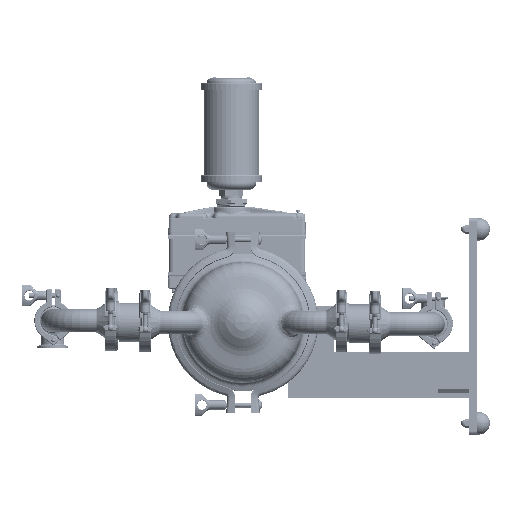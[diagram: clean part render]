
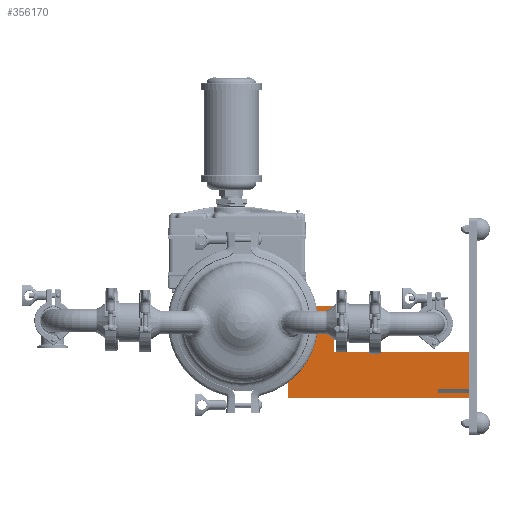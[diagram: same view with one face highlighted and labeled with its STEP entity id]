
A CAD part, left-side view. The second image highlights one B-rep face of the part: STEP entity #356170.
In plain terms, the highlighted planar face has unit normal (-1, 0, 0).
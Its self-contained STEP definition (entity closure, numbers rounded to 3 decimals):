
#142568=DIRECTION('',(0.,1.,0.));
#142569=VECTOR('',#142568,11.68);
#142570=CARTESIAN_POINT('',(-1.,-14.56,-4.898));
#142571=LINE('',#142570,#142569);
#142572=DIRECTION('',(0.,0.,1.));
#142573=VECTOR('',#142572,2.44);
#142574=CARTESIAN_POINT('',(-1.,-2.88,-4.898));
#142575=LINE('',#142574,#142573);
#142576=DIRECTION('',(0.,1.,0.));
#142577=VECTOR('',#142576,1.33);
#142578=CARTESIAN_POINT('',(-1.,-4.21,-2.458));
#142579=LINE('',#142578,#142577);
#142580=DIRECTION('',(0.,0.,-1.));
#142581=VECTOR('',#142580,0.53);
#142582=CARTESIAN_POINT('',(-1.,-4.21,-1.928));
#142583=LINE('',#142582,#142581);
#142584=DIRECTION('',(0.,-1.,0.));
#142585=VECTOR('',#142584,0.05);
#142586=CARTESIAN_POINT('',(-1.,-4.16,-1.928));
#142587=LINE('',#142586,#142585);
#142588=DIRECTION('',(0.,-1.,0.));
#142589=VECTOR('',#142588,1.28);
#142590=CARTESIAN_POINT('',(-1.,-2.88,-1.928));
#142591=LINE('',#142590,#142589);
#142592=DIRECTION('',(0.,0.,1.));
#142593=VECTOR('',#142592,2.955);
#142594=CARTESIAN_POINT('',(-1.,-2.88,-1.928));
#142595=LINE('',#142594,#142593);
#142596=DIRECTION('',(0.,-1.,0.));
#142597=VECTOR('',#142596,8.68);
#142598=CARTESIAN_POINT('',(-1.,-5.88,-1.898));
#142599=LINE('',#142598,#142597);
#142600=DIRECTION('',(0.,1.,0.));
#142601=VECTOR('',#142600,2.);
#142602=CARTESIAN_POINT('',(-1.,-14.56,-4.288));
#142603=LINE('',#142602,#142601);
#142604=DIRECTION('',(0.,0.,-1.));
#142605=VECTOR('',#142604,0.25);
#142606=CARTESIAN_POINT('',(-1.,-12.56,-4.288));
#142607=LINE('',#142606,#142605);
#142608=DIRECTION('',(0.,1.,0.));
#142609=VECTOR('',#142608,2.);
#142610=CARTESIAN_POINT('',(-1.,-14.56,-4.538));
#142611=LINE('',#142610,#142609);
#142844=DIRECTION('',(0.,0.,-1.));
#142845=VECTOR('',#142844,2.39);
#142846=CARTESIAN_POINT('',(-1.,-14.56,-1.898));
#142847=LINE('',#142846,#142845);
#142876=DIRECTION('',(0.,0.,-1.));
#142877=VECTOR('',#142876,0.36);
#142878=CARTESIAN_POINT('',(-1.,-14.56,-4.538));
#142879=LINE('',#142878,#142877);
#143420=DIRECTION('',(0.,0.,1.));
#143421=VECTOR('',#143420,2.925);
#143422=CARTESIAN_POINT('',(-1.,-5.88,-1.898));
#143423=LINE('',#143422,#143421);
#143436=DIRECTION('',(0.,-1.,0.));
#143437=VECTOR('',#143436,3.);
#143438=CARTESIAN_POINT('',(-1.,-2.88,1.027));
#143439=LINE('',#143438,#143437);
#223707=CARTESIAN_POINT('',(-1.,-14.56,-4.898));
#223709=VERTEX_POINT('',#223707);
#223712=CARTESIAN_POINT('',(-1.,-14.56,-1.898));
#223714=VERTEX_POINT('',#223712);
#223715=CARTESIAN_POINT('',(-1.,-4.21,-1.928));
#223716=CARTESIAN_POINT('',(-1.,-4.21,-2.458));
#223717=VERTEX_POINT('',#223715);
#223718=VERTEX_POINT('',#223716);
#223719=CARTESIAN_POINT('',(-1.,-2.88,-2.458));
#223720=VERTEX_POINT('',#223719);
#223740=CARTESIAN_POINT('',(-1.,-5.88,-1.898));
#223742=VERTEX_POINT('',#223740);
#223747=CARTESIAN_POINT('',(-1.,-2.88,1.027));
#223748=VERTEX_POINT('',#223747);
#223749=CARTESIAN_POINT('',(-1.,-5.88,1.027));
#223750=VERTEX_POINT('',#223749);
#223924=CARTESIAN_POINT('',(-1.,-2.88,-1.928));
#223925=CARTESIAN_POINT('',(-1.,-4.16,-1.928));
#223926=VERTEX_POINT('',#223924);
#223927=VERTEX_POINT('',#223925);
#223952=CARTESIAN_POINT('',(-1.,-14.56,-4.288));
#223954=VERTEX_POINT('',#223952);
#223956=CARTESIAN_POINT('',(-1.,-14.56,-4.538));
#223958=VERTEX_POINT('',#223956);
#223960=CARTESIAN_POINT('',(-1.,-12.56,-4.288));
#223961=VERTEX_POINT('',#223960);
#223962=CARTESIAN_POINT('',(-1.,-12.56,-4.538));
#223963=VERTEX_POINT('',#223962);
#223965=CARTESIAN_POINT('',(-1.,-2.88,-4.898));
#223967=VERTEX_POINT('',#223965);
#356135=CARTESIAN_POINT('',(-1.,-5.88,-1.898));
#356136=DIRECTION('',(-1.,0.,0.));
#356137=DIRECTION('',(0.,0.,-1.));
#356138=AXIS2_PLACEMENT_3D('',#356135,#356136,#356137);
#356139=PLANE('',#356138);
#356141=ORIENTED_EDGE('',*,*,#356140,.T.);
#356143=ORIENTED_EDGE('',*,*,#356142,.T.);
#356145=ORIENTED_EDGE('',*,*,#356144,.F.);
#356147=ORIENTED_EDGE('',*,*,#356146,.F.);
#356148=ORIENTED_EDGE('',*,*,#356126,.F.);
#356149=ORIENTED_EDGE('',*,*,#259082,.F.);
#356151=ORIENTED_EDGE('',*,*,#356150,.T.);
#356153=ORIENTED_EDGE('',*,*,#356152,.T.);
#356155=ORIENTED_EDGE('',*,*,#356154,.F.);
#356157=ORIENTED_EDGE('',*,*,#356156,.T.);
#356159=ORIENTED_EDGE('',*,*,#356158,.T.);
#356161=ORIENTED_EDGE('',*,*,#356160,.T.);
#356163=ORIENTED_EDGE('',*,*,#356162,.T.);
#356165=ORIENTED_EDGE('',*,*,#356164,.F.);
#356167=ORIENTED_EDGE('',*,*,#356166,.T.);
#356168=EDGE_LOOP('',(#356141,#356143,#356145,#356147,#356148,#356149,#356151,
#356153,#356155,#356157,#356159,#356161,#356163,#356165,#356167));
#356169=FACE_OUTER_BOUND('',#356168,.F.);
#259082=EDGE_CURVE('',#223926,#223927,#142591,.T.);
#356126=EDGE_CURVE('',#223927,#223717,#142587,.T.);
#356140=EDGE_CURVE('',#223709,#223967,#142571,.T.);
#356142=EDGE_CURVE('',#223967,#223720,#142575,.T.);
#356144=EDGE_CURVE('',#223718,#223720,#142579,.T.);
#356146=EDGE_CURVE('',#223717,#223718,#142583,.T.);
#356150=EDGE_CURVE('',#223926,#223748,#142595,.T.);
#356152=EDGE_CURVE('',#223748,#223750,#143439,.T.);
#356154=EDGE_CURVE('',#223742,#223750,#143423,.T.);
#356156=EDGE_CURVE('',#223742,#223714,#142599,.T.);
#356158=EDGE_CURVE('',#223714,#223954,#142847,.T.);
#356160=EDGE_CURVE('',#223954,#223961,#142603,.T.);
#356162=EDGE_CURVE('',#223961,#223963,#142607,.T.);
#356164=EDGE_CURVE('',#223958,#223963,#142611,.T.);
#356166=EDGE_CURVE('',#223958,#223709,#142879,.T.);
#356170=ADVANCED_FACE('',(#356169),#356139,.T.);
